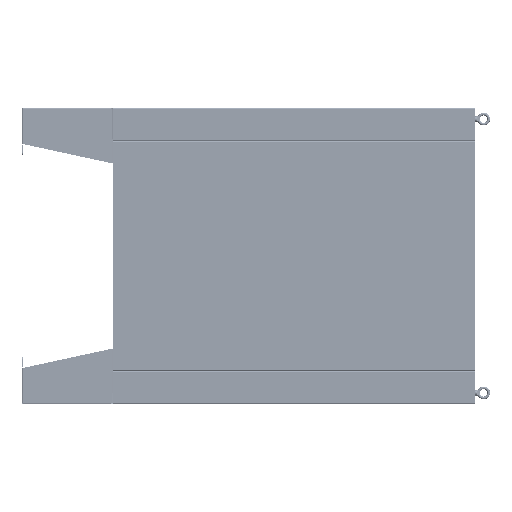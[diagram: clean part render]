
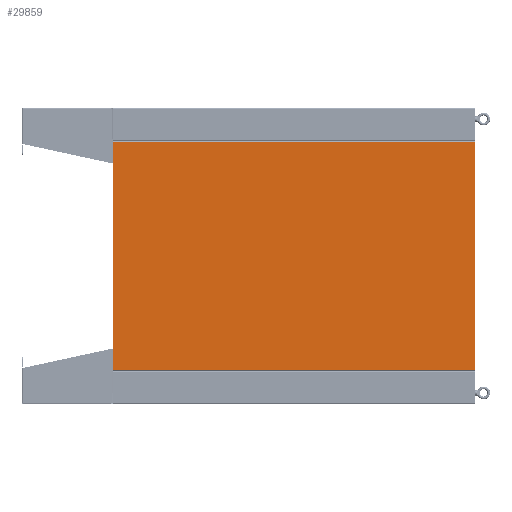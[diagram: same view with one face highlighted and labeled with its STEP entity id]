
A CAD part, left-side view. The second image highlights one B-rep face of the part: STEP entity #29859.
In plain terms, the highlighted planar face has unit normal (-1, 0, 0) as drawn and (0, 1, 0) by its records, which use the part's own axes.
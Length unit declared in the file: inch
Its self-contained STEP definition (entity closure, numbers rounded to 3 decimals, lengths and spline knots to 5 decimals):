
#28184=DIRECTION('',(-1.,0.,0.));
#28185=VECTOR('',#28184,37.622);
#28186=CARTESIAN_POINT('',(18.811,0.,29.896));
#28187=LINE('',#28186,#28185);
#28227=DIRECTION('',(0.,0.,1.));
#28228=VECTOR('',#28227,59.792);
#28229=CARTESIAN_POINT('',(18.811,0.,-29.896));
#28230=LINE('',#28229,#28228);
#28314=DIRECTION('',(-1.,0.,0.));
#28315=VECTOR('',#28314,37.622);
#28316=CARTESIAN_POINT('',(18.811,0.,-29.896));
#28317=LINE('',#28316,#28315);
#28357=DIRECTION('',(0.,0.,-1.));
#28358=VECTOR('',#28357,59.792);
#28359=CARTESIAN_POINT('',(-18.811,0.,29.896));
#28360=LINE('',#28359,#28358);
#29608=CARTESIAN_POINT('',(-18.811,0.,-29.896));
#29609=VERTEX_POINT('',#29608);
#29610=CARTESIAN_POINT('',(-18.811,0.,29.896));
#29611=VERTEX_POINT('',#29610);
#29624=CARTESIAN_POINT('',(18.811,0.,29.896));
#29625=VERTEX_POINT('',#29624);
#29626=CARTESIAN_POINT('',(18.811,0.,-29.896));
#29627=VERTEX_POINT('',#29626);
#29844=CARTESIAN_POINT('',(19.,0.,29.896));
#29845=DIRECTION('',(0.,1.,0.));
#29846=DIRECTION('',(-1.,0.,0.));
#29847=AXIS2_PLACEMENT_3D('',#29844,#29845,#29846);
#29848=PLANE('',#29847);
#29850=ORIENTED_EDGE('',*,*,#29849,.T.);
#29852=ORIENTED_EDGE('',*,*,#29851,.T.);
#29854=ORIENTED_EDGE('',*,*,#29853,.F.);
#29856=ORIENTED_EDGE('',*,*,#29855,.T.);
#29857=EDGE_LOOP('',(#29850,#29852,#29854,#29856));
#29858=FACE_OUTER_BOUND('',#29857,.F.);
#29849=EDGE_CURVE('',#29625,#29611,#28187,.T.);
#29851=EDGE_CURVE('',#29611,#29609,#28360,.T.);
#29853=EDGE_CURVE('',#29627,#29609,#28317,.T.);
#29855=EDGE_CURVE('',#29627,#29625,#28230,.T.);
#29859=ADVANCED_FACE('',(#29858),#29848,.T.);
